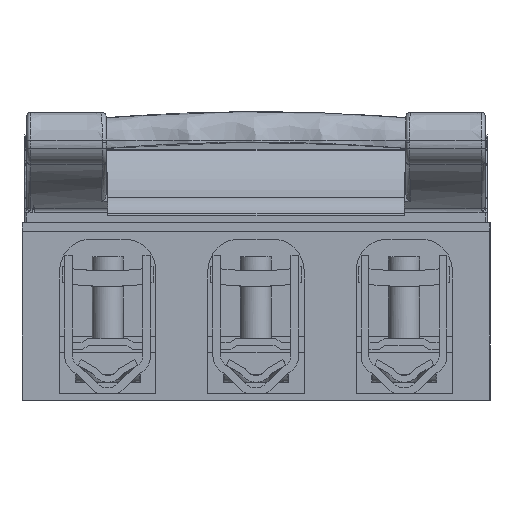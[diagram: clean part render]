
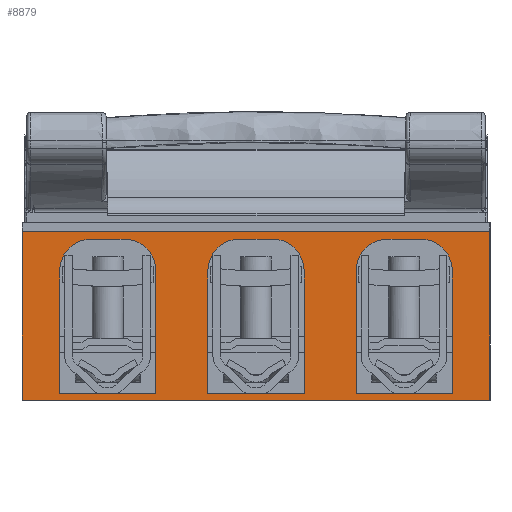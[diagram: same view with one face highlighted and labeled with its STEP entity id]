
A CAD part, left-side view. The second image highlights one B-rep face of the part: STEP entity #8879.
In plain terms, the highlighted planar face has unit normal (-1, 0, 0).
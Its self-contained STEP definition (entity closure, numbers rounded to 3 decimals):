
#8879=ADVANCED_FACE('',(#13424,#13425,#13426,#13427),#11133,.F.);
#11133=PLANE('',#47906);
#12736=CIRCLE('',#47900,12.275);
#12737=CIRCLE('',#47901,12.275);
#12738=CIRCLE('',#47902,12.275);
#12739=CIRCLE('',#47903,12.275);
#12740=CIRCLE('',#47904,12.275);
#12741=CIRCLE('',#47905,12.275);
#13424=FACE_BOUND('',#14284,.T.);
#13425=FACE_BOUND('',#14285,.T.);
#13426=FACE_BOUND('',#14286,.T.);
#13427=FACE_BOUND('',#14287,.T.);
#14284=EDGE_LOOP('',(#18946,#18947,#18948,#18949));
#14285=EDGE_LOOP('',(#18950,#18951,#18952,#18953,#18954,#18955));
#14286=EDGE_LOOP('',(#18956,#18957,#18958,#18959,#18960,#18961));
#14287=EDGE_LOOP('',(#18962,#18963,#18964,#18965,#18966,#18967));
#18946=ORIENTED_EDGE('',*,*,#33929,.T.);
#18947=ORIENTED_EDGE('',*,*,#35229,.T.);
#18948=ORIENTED_EDGE('',*,*,#35146,.T.);
#18949=ORIENTED_EDGE('',*,*,#33979,.F.);
#18950=ORIENTED_EDGE('',*,*,#35230,.T.);
#18951=ORIENTED_EDGE('',*,*,#35231,.F.);
#18952=ORIENTED_EDGE('',*,*,#35232,.F.);
#18953=ORIENTED_EDGE('',*,*,#35233,.T.);
#18954=ORIENTED_EDGE('',*,*,#35234,.T.);
#18955=ORIENTED_EDGE('',*,*,#35235,.T.);
#18956=ORIENTED_EDGE('',*,*,#35236,.T.);
#18957=ORIENTED_EDGE('',*,*,#35237,.F.);
#18958=ORIENTED_EDGE('',*,*,#35238,.F.);
#18959=ORIENTED_EDGE('',*,*,#35239,.T.);
#18960=ORIENTED_EDGE('',*,*,#35240,.T.);
#18961=ORIENTED_EDGE('',*,*,#35241,.T.);
#18962=ORIENTED_EDGE('',*,*,#35242,.T.);
#18963=ORIENTED_EDGE('',*,*,#35243,.F.);
#18964=ORIENTED_EDGE('',*,*,#35244,.F.);
#18965=ORIENTED_EDGE('',*,*,#35245,.T.);
#18966=ORIENTED_EDGE('',*,*,#35246,.T.);
#18967=ORIENTED_EDGE('',*,*,#35247,.T.);
#29660=VERTEX_POINT('',#63682);
#29661=VERTEX_POINT('',#63684);
#29704=VERTEX_POINT('',#63808);
#30391=VERTEX_POINT('',#67550);
#30401=VERTEX_POINT('',#68150);
#30402=VERTEX_POINT('',#68151);
#30403=VERTEX_POINT('',#68153);
#30404=VERTEX_POINT('',#68155);
#30405=VERTEX_POINT('',#68157);
#30406=VERTEX_POINT('',#68159);
#30407=VERTEX_POINT('',#68162);
#30408=VERTEX_POINT('',#68163);
#30409=VERTEX_POINT('',#68165);
#30410=VERTEX_POINT('',#68167);
#30411=VERTEX_POINT('',#68169);
#30412=VERTEX_POINT('',#68171);
#30413=VERTEX_POINT('',#68174);
#30414=VERTEX_POINT('',#68175);
#30415=VERTEX_POINT('',#68177);
#30416=VERTEX_POINT('',#68179);
#30417=VERTEX_POINT('',#68181);
#30418=VERTEX_POINT('',#68183);
#33929=EDGE_CURVE('',#29660,#29661,#40556,.T.);
#33979=EDGE_CURVE('',#29660,#29704,#40586,.T.);
#35146=EDGE_CURVE('',#30391,#29704,#41178,.T.);
#35229=EDGE_CURVE('',#29661,#30391,#41193,.T.);
#35230=EDGE_CURVE('',#30401,#30402,#12736,.T.);
#35231=EDGE_CURVE('',#30403,#30402,#41194,.T.);
#35232=EDGE_CURVE('',#30404,#30403,#41195,.T.);
#35233=EDGE_CURVE('',#30404,#30405,#41196,.T.);
#35234=EDGE_CURVE('',#30405,#30406,#12737,.T.);
#35235=EDGE_CURVE('',#30406,#30401,#41197,.T.);
#35236=EDGE_CURVE('',#30407,#30408,#12738,.T.);
#35237=EDGE_CURVE('',#30409,#30408,#41198,.T.);
#35238=EDGE_CURVE('',#30410,#30409,#41199,.T.);
#35239=EDGE_CURVE('',#30410,#30411,#41200,.T.);
#35240=EDGE_CURVE('',#30411,#30412,#12739,.T.);
#35241=EDGE_CURVE('',#30412,#30407,#41201,.T.);
#35242=EDGE_CURVE('',#30413,#30414,#12740,.T.);
#35243=EDGE_CURVE('',#30415,#30414,#41202,.T.);
#35244=EDGE_CURVE('',#30416,#30415,#41203,.T.);
#35245=EDGE_CURVE('',#30416,#30417,#41204,.T.);
#35246=EDGE_CURVE('',#30417,#30418,#12741,.T.);
#35247=EDGE_CURVE('',#30418,#30413,#41205,.T.);
#40556=LINE('',#63685,#43699);
#40586=LINE('',#63817,#43729);
#41178=LINE('',#67553,#44321);
#41193=LINE('',#68147,#44336);
#41194=LINE('',#68152,#44337);
#41195=LINE('',#68154,#44338);
#41196=LINE('',#68156,#44339);
#41197=LINE('',#68160,#44340);
#41198=LINE('',#68164,#44341);
#41199=LINE('',#68166,#44342);
#41200=LINE('',#68168,#44343);
#41201=LINE('',#68172,#44344);
#41202=LINE('',#68176,#44345);
#41203=LINE('',#68178,#44346);
#41204=LINE('',#68180,#44347);
#41205=LINE('',#68184,#44348);
#43699=VECTOR('',#51424,1.);
#43729=VECTOR('',#51494,1.);
#44321=VECTOR('',#53738,1.);
#44336=VECTOR('',#54091,1.);
#44337=VECTOR('',#54096,1.);
#44338=VECTOR('',#54097,1.);
#44339=VECTOR('',#54098,1.);
#44340=VECTOR('',#54101,1.);
#44341=VECTOR('',#54104,1.);
#44342=VECTOR('',#54105,1.);
#44343=VECTOR('',#54106,1.);
#44344=VECTOR('',#54109,1.);
#44345=VECTOR('',#54112,1.);
#44346=VECTOR('',#54113,1.);
#44347=VECTOR('',#54114,1.);
#44348=VECTOR('',#54117,1.);
#47900=AXIS2_PLACEMENT_3D('',#68149,#54094,#54095);
#47901=AXIS2_PLACEMENT_3D('',#68158,#54099,#54100);
#47902=AXIS2_PLACEMENT_3D('',#68161,#54102,#54103);
#47903=AXIS2_PLACEMENT_3D('',#68170,#54107,#54108);
#47904=AXIS2_PLACEMENT_3D('',#68173,#54110,#54111);
#47905=AXIS2_PLACEMENT_3D('',#68182,#54115,#54116);
#47906=AXIS2_PLACEMENT_3D('',#68185,#54118,#54119);
#51424=DIRECTION('',(0.,-1.,0.));
#51494=DIRECTION('',(0.,0.,1.));
#53738=DIRECTION('',(0.,1.,0.));
#54091=DIRECTION('',(0.,0.,1.));
#54094=DIRECTION('',(1.,0.,0.));
#54095=DIRECTION('',(0.,0.,-1.));
#54096=DIRECTION('',(0.,0.,1.));
#54097=DIRECTION('',(0.,-1.,0.));
#54098=DIRECTION('',(0.,0.,1.));
#54099=DIRECTION('',(1.,0.,0.));
#54100=DIRECTION('',(0.,0.,-1.));
#54101=DIRECTION('',(0.,-1.,0.));
#54102=DIRECTION('',(1.,0.,0.));
#54103=DIRECTION('',(0.,0.,-1.));
#54104=DIRECTION('',(0.,0.,1.));
#54105=DIRECTION('',(0.,-1.,0.));
#54106=DIRECTION('',(0.,0.,1.));
#54107=DIRECTION('',(1.,0.,0.));
#54108=DIRECTION('',(0.,0.,-1.));
#54109=DIRECTION('',(0.,-1.,0.));
#54110=DIRECTION('',(1.,0.,0.));
#54111=DIRECTION('',(0.,0.,-1.));
#54112=DIRECTION('',(0.,0.,1.));
#54113=DIRECTION('',(0.,-1.,0.));
#54114=DIRECTION('',(0.,0.,1.));
#54115=DIRECTION('',(1.,0.,0.));
#54116=DIRECTION('',(0.,0.,-1.));
#54117=DIRECTION('',(0.,-1.,0.));
#54118=DIRECTION('',(1.,0.,0.));
#54119=DIRECTION('',(0.,1.,0.));
#63682=CARTESIAN_POINT('',(-103.372,99.784,112.088));
#63684=CARTESIAN_POINT('',(-103.372,-80.216,112.088));
#63685=CARTESIAN_POINT('',(-103.372,95.284,112.088));
#63808=CARTESIAN_POINT('',(-103.372,99.784,177.006));
#63817=CARTESIAN_POINT('',(-103.372,99.784,117.088));
#67550=CARTESIAN_POINT('',(-103.372,-80.216,177.006));
#67553=CARTESIAN_POINT('',(-103.372,95.284,177.006));
#68147=CARTESIAN_POINT('',(-103.372,-80.216,117.088));
#68149=CARTESIAN_POINT('',(-103.372,60.534,161.838));
#68150=CARTESIAN_POINT('',(-103.372,60.534,174.113));
#68151=CARTESIAN_POINT('',(-103.372,48.26,161.838));
#68152=CARTESIAN_POINT('',(-103.372,48.26,144.763));
#68153=CARTESIAN_POINT('',(-103.372,48.26,114.588));
#68154=CARTESIAN_POINT('',(-103.372,-76.716,114.588));
#68155=CARTESIAN_POINT('',(-103.372,85.309,114.588));
#68156=CARTESIAN_POINT('',(-103.372,85.309,203.088));
#68157=CARTESIAN_POINT('',(-103.372,85.309,161.838));
#68158=CARTESIAN_POINT('',(-103.372,73.034,161.838));
#68159=CARTESIAN_POINT('',(-103.372,73.034,174.113));
#68160=CARTESIAN_POINT('',(-103.372,95.284,174.113));
#68161=CARTESIAN_POINT('',(-103.372,3.534,161.838));
#68162=CARTESIAN_POINT('',(-103.372,3.534,174.113));
#68163=CARTESIAN_POINT('',(-103.372,-8.74,161.838));
#68164=CARTESIAN_POINT('',(-103.372,-8.74,144.763));
#68165=CARTESIAN_POINT('',(-103.372,-8.74,114.588));
#68166=CARTESIAN_POINT('',(-103.372,-133.716,114.588));
#68167=CARTESIAN_POINT('',(-103.372,28.309,114.588));
#68168=CARTESIAN_POINT('',(-103.372,28.309,203.088));
#68169=CARTESIAN_POINT('',(-103.372,28.309,161.838));
#68170=CARTESIAN_POINT('',(-103.372,16.034,161.838));
#68171=CARTESIAN_POINT('',(-103.372,16.034,174.113));
#68172=CARTESIAN_POINT('',(-103.372,95.284,174.113));
#68173=CARTESIAN_POINT('',(-103.372,-53.466,161.838));
#68174=CARTESIAN_POINT('',(-103.372,-53.466,174.113));
#68175=CARTESIAN_POINT('',(-103.372,-65.74,161.838));
#68176=CARTESIAN_POINT('',(-103.372,-65.74,144.763));
#68177=CARTESIAN_POINT('',(-103.372,-65.74,114.588));
#68178=CARTESIAN_POINT('',(-103.372,-190.716,114.588));
#68179=CARTESIAN_POINT('',(-103.372,-28.691,114.588));
#68180=CARTESIAN_POINT('',(-103.372,-28.691,203.088));
#68181=CARTESIAN_POINT('',(-103.372,-28.691,161.838));
#68182=CARTESIAN_POINT('',(-103.372,-40.966,161.838));
#68183=CARTESIAN_POINT('',(-103.372,-40.966,174.113));
#68184=CARTESIAN_POINT('',(-103.372,95.284,174.113));
#68185=CARTESIAN_POINT('',(-103.372,95.284,203.088));
